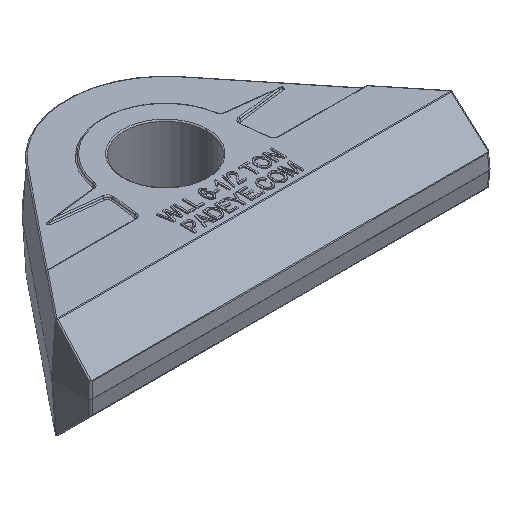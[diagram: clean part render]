
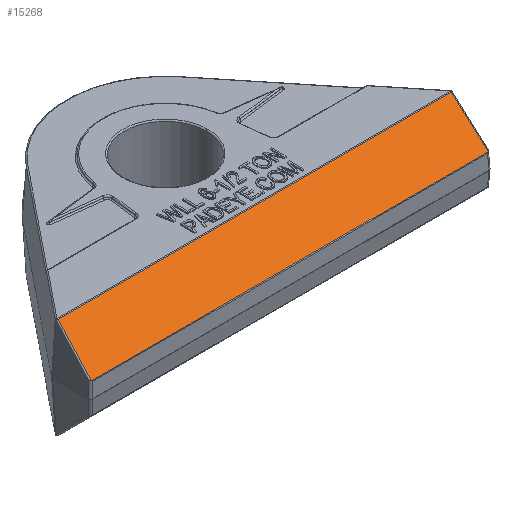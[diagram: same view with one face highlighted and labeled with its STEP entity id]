
A CAD part, isometric view. The second image highlights one B-rep face of the part: STEP entity #15268.
In plain terms, the highlighted planar face has unit normal (0, -0.707, 0.707).
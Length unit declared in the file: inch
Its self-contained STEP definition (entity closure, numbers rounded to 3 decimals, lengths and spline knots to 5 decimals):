
#418 = DIRECTION ( 'NONE',  ( -1., 0., 0. ) ) ;
#3087 = ORIENTED_EDGE ( 'NONE', *, *, #30345, .T. ) ;
#3304 = EDGE_CURVE ( 'NONE', #9709, #4554, #39972, .T. ) ;
#3364 = LINE ( 'NONE', #12695, #9794 ) ;
#3678 = CARTESIAN_POINT ( 'NONE',  ( -2.59375, -1.1575, 0.65186 ) ) ;
#4486 = DIRECTION ( 'NONE',  ( -1., 0., 0. ) ) ;
#4554 = VERTEX_POINT ( 'NONE', #11324 ) ;
#4699 = VERTEX_POINT ( 'NONE', #23409 ) ;
#5302 = VERTEX_POINT ( 'NONE', #8453 ) ;
#5430 = CARTESIAN_POINT ( 'NONE',  ( 2.54491, -1.15349, 0.65587 ) ) ;
#6672 = LINE ( 'NONE', #3678, #35953 ) ;
#7090 = ORIENTED_EDGE ( 'NONE', *, *, #3304, .T. ) ;
#8066 = DIRECTION ( 'NONE',  ( 0., 0.707, -0.707 ) ) ;
#8453 = CARTESIAN_POINT ( 'NONE',  ( 2.54512, -1.1575, 0.65186 ) ) ;
#9709 = VERTEX_POINT ( 'NONE', #27667 ) ;
#9794 = VECTOR ( 'NONE', #30666, 39.37008 ) ;
#10950 =( BOUNDED_CURVE ( )  B_SPLINE_CURVE ( 3, ( #33505, #37581, #15201, #22716 ),
 .UNSPECIFIED., .F., .F. ) 
 B_SPLINE_CURVE_WITH_KNOTS ( ( 4, 4 ),
 ( 3.60696, 3.63693 ),
 .UNSPECIFIED. ) 
 CURVE ( )  GEOMETRIC_REPRESENTATION_ITEM ( )  RATIONAL_B_SPLINE_CURVE ( ( 1., 1., 1., 1. ) ) 
 REPRESENTATION_ITEM ( '' )  );
#11324 = CARTESIAN_POINT ( 'NONE',  ( -2.5681, -1.61073, 0.19863 ) ) ;
#11505 = VERTEX_POINT ( 'NONE', #28725 ) ;
#12695 = CARTESIAN_POINT ( 'NONE',  ( 2.58355, -1.61073, 0.19863 ) ) ;
#13063 = AXIS2_PLACEMENT_3D ( 'NONE', #19864, #8066, #4486 ) ;
#13189 = EDGE_CURVE ( 'NONE', #4554, #11505, #3364, .T. ) ;
#13361 = VECTOR ( 'NONE', #24282, 39.37008 ) ;
#15201 = CARTESIAN_POINT ( 'NONE',  ( 2.5686, -1.61042, 0.19894 ) ) ;
#15268 = ADVANCED_FACE ( 'NONE', ( #22005 ), #19695, .F. ) ;
#15455 = CARTESIAN_POINT ( 'NONE',  ( -2.56835, -1.61058, 0.19878 ) ) ;
#18603 = VERTEX_POINT ( 'NONE', #42868 ) ;
#19695 = PLANE ( 'NONE',  #13063 ) ;
#19864 = CARTESIAN_POINT ( 'NONE',  ( -2.59375, -1.15311, 0.65625 ) ) ;
#21720 = EDGE_CURVE ( 'NONE', #18603, #5302, #28851, .T. ) ;
#21751 = ORIENTED_EDGE ( 'NONE', *, *, #13189, .T. ) ;
#22005 = FACE_OUTER_BOUND ( 'NONE', #34918, .T. ) ;
#22716 = CARTESIAN_POINT ( 'NONE',  ( 2.56885, -1.61025, 0.1991 ) ) ;
#23409 = CARTESIAN_POINT ( 'NONE',  ( -2.54512, -1.1575, 0.65186 ) ) ;
#24282 = DIRECTION ( 'NONE',  ( -0.037, -0.707, -0.707 ) ) ;
#24469 = LINE ( 'NONE', #31145, #13361 ) ;
#26188 = ORIENTED_EDGE ( 'NONE', *, *, #28478, .T. ) ;
#27667 = CARTESIAN_POINT ( 'NONE',  ( -2.56885, -1.61025, 0.1991 ) ) ;
#28478 = EDGE_CURVE ( 'NONE', #11505, #18603, #10950, .T. ) ;
#28725 = CARTESIAN_POINT ( 'NONE',  ( 2.5681, -1.61073, 0.19863 ) ) ;
#28851 = LINE ( 'NONE', #5430, #31781 ) ;
#30345 = EDGE_CURVE ( 'NONE', #5302, #4699, #6672, .T. ) ;
#30666 = DIRECTION ( 'NONE',  ( 1., 0., 0. ) ) ;
#31145 = CARTESIAN_POINT ( 'NONE',  ( -2.56911, -1.61518, 0.19418 ) ) ;
#31781 = VECTOR ( 'NONE', #46284, 39.37008 ) ;
#33505 = CARTESIAN_POINT ( 'NONE',  ( 2.5681, -1.61073, 0.19863 ) ) ;
#34918 = EDGE_LOOP ( 'NONE', ( #46959, #7090, #21751, #26188, #40637, #3087 ) ) ;
#35953 = VECTOR ( 'NONE', #418, 39.37008 ) ;
#37581 = CARTESIAN_POINT ( 'NONE',  ( 2.56835, -1.61058, 0.19878 ) ) ;
#39972 =( BOUNDED_CURVE ( )  B_SPLINE_CURVE ( 3, ( #48464, #45156, #15455, #44668 ),
 .UNSPECIFIED., .F., .F. ) 
 B_SPLINE_CURVE_WITH_KNOTS ( ( 4, 4 ),
 ( 2.64626, 2.67622 ),
 .UNSPECIFIED. ) 
 CURVE ( )  GEOMETRIC_REPRESENTATION_ITEM ( )  RATIONAL_B_SPLINE_CURVE ( ( 1., 1., 1., 1. ) ) 
 REPRESENTATION_ITEM ( '' )  );
#40637 = ORIENTED_EDGE ( 'NONE', *, *, #21720, .T. ) ;
#42868 = CARTESIAN_POINT ( 'NONE',  ( 2.56885, -1.61025, 0.1991 ) ) ;
#44668 = CARTESIAN_POINT ( 'NONE',  ( -2.5681, -1.61073, 0.19863 ) ) ;
#45156 = CARTESIAN_POINT ( 'NONE',  ( -2.5686, -1.61042, 0.19894 ) ) ;
#46284 = DIRECTION ( 'NONE',  ( -0.037, 0.707, 0.707 ) ) ;
#46959 = ORIENTED_EDGE ( 'NONE', *, *, #46982, .T. ) ;
#46982 = EDGE_CURVE ( 'NONE', #4699, #9709, #24469, .T. ) ;
#48464 = CARTESIAN_POINT ( 'NONE',  ( -2.56885, -1.61025, 0.1991 ) ) ;
